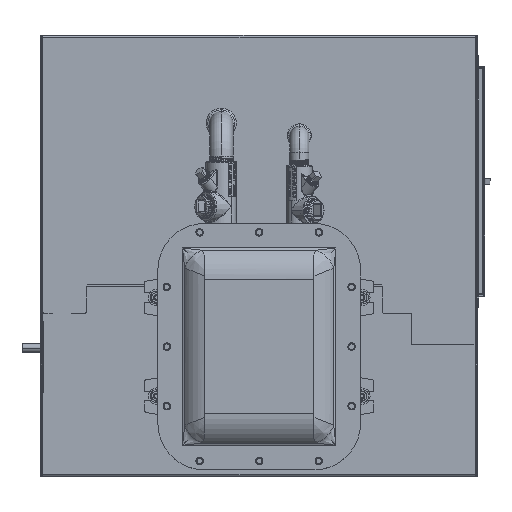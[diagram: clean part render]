
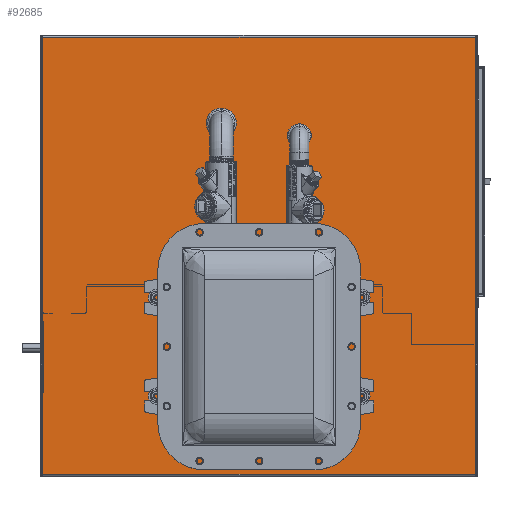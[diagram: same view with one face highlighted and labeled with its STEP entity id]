
A CAD part, top view. The second image highlights one B-rep face of the part: STEP entity #92685.
In plain terms, the highlighted planar face has unit normal (0, 0, 1).
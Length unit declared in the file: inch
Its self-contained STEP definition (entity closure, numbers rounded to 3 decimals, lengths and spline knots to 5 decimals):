
#1674 = VECTOR ( 'NONE', #10700, 39.37008 ) ;
#10700 = DIRECTION ( 'NONE',  ( -1., 0., 0. ) ) ;
#15618 = PLANE ( 'NONE',  #82561 ) ;
#18338 = CARTESIAN_POINT ( 'NONE',  ( 0., 0., 12. ) ) ;
#24745 = FACE_OUTER_BOUND ( 'NONE', #126391, .T. ) ;
#28491 = VERTEX_POINT ( 'NONE', #48010 ) ;
#28588 = LINE ( 'NONE', #125542, #71353 ) ;
#32712 = LINE ( 'NONE', #55168, #134881 ) ;
#45014 = CARTESIAN_POINT ( 'NONE',  ( 9.88216, 9.968, 12. ) ) ;
#48010 = CARTESIAN_POINT ( 'NONE',  ( 9.878, -9.968, 12. ) ) ;
#48282 = LINE ( 'NONE', #101739, #118861 ) ;
#55168 = CARTESIAN_POINT ( 'NONE',  ( 9.878, -9.97216, 12. ) ) ;
#56730 = ORIENTED_EDGE ( 'NONE', *, *, #125463, .T. ) ;
#58158 = DIRECTION ( 'NONE',  ( 0., -1., 0. ) ) ;
#60540 = VERTEX_POINT ( 'NONE', #136657 ) ;
#61137 = DIRECTION ( 'NONE',  ( 1., 0., 0. ) ) ;
#71353 = VECTOR ( 'NONE', #126239, 39.37008 ) ;
#73456 = DIRECTION ( 'NONE',  ( 0., 1., 0. ) ) ;
#76997 = EDGE_CURVE ( 'NONE', #60540, #97115, #128009, .T. ) ;
#82561 = AXIS2_PLACEMENT_3D ( 'NONE', #18338, #113875, #61137 ) ;
#84454 = CARTESIAN_POINT ( 'NONE',  ( -9.878, 9.968, 12. ) ) ;
#92685 = ADVANCED_FACE ( 'NONE', ( #24745 ), #15618, .F. ) ;
#97115 = VERTEX_POINT ( 'NONE', #84454 ) ;
#101739 = CARTESIAN_POINT ( 'NONE',  ( -9.878, 9.97216, 12. ) ) ;
#113633 = ORIENTED_EDGE ( 'NONE', *, *, #133807, .T. ) ;
#113875 = DIRECTION ( 'NONE',  ( 0., 0., -1. ) ) ;
#114024 = CARTESIAN_POINT ( 'NONE',  ( -9.878, -9.968, 12. ) ) ;
#118122 = ORIENTED_EDGE ( 'NONE', *, *, #120158, .T. ) ;
#118861 = VECTOR ( 'NONE', #58158, 39.37008 ) ;
#120158 = EDGE_CURVE ( 'NONE', #123067, #28491, #28588, .T. ) ;
#123067 = VERTEX_POINT ( 'NONE', #114024 ) ;
#125463 = EDGE_CURVE ( 'NONE', #28491, #60540, #32712, .T. ) ;
#125542 = CARTESIAN_POINT ( 'NONE',  ( -9.88216, -9.968, 12. ) ) ;
#125639 = ORIENTED_EDGE ( 'NONE', *, *, #76997, .T. ) ;
#126239 = DIRECTION ( 'NONE',  ( 1., 0., 0. ) ) ;
#126391 = EDGE_LOOP ( 'NONE', ( #125639, #113633, #118122, #56730 ) ) ;
#128009 = LINE ( 'NONE', #45014, #1674 ) ;
#133807 = EDGE_CURVE ( 'NONE', #97115, #123067, #48282, .T. ) ;
#134881 = VECTOR ( 'NONE', #73456, 39.37008 ) ;
#136657 = CARTESIAN_POINT ( 'NONE',  ( 9.878, 9.968, 12. ) ) ;
